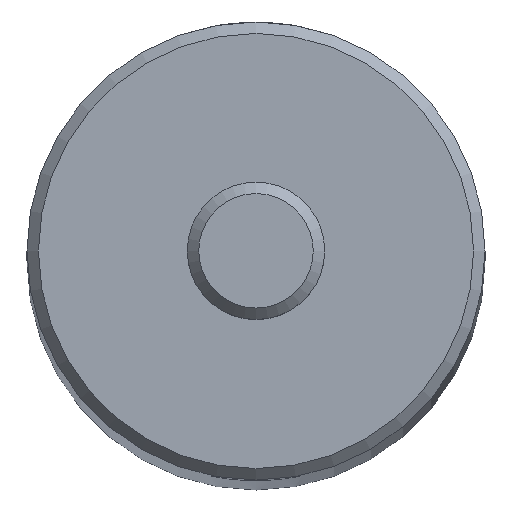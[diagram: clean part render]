
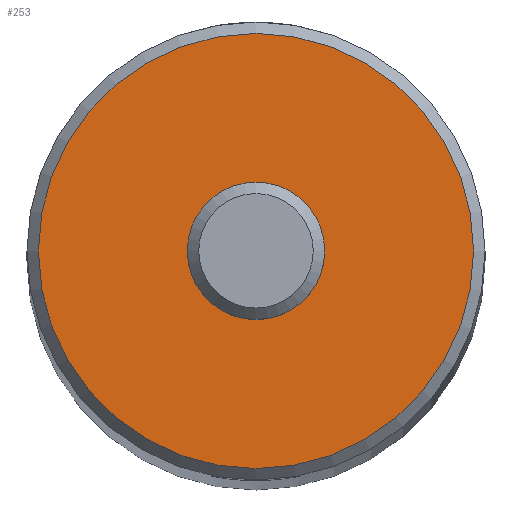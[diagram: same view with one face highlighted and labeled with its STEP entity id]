
A CAD part, top view. The second image highlights one B-rep face of the part: STEP entity #253.
In plain terms, the highlighted planar face has unit normal (0, 0, 1).
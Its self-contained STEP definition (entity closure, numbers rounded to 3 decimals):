
#49=CARTESIAN_POINT('',(9.5,0.,250.0));
#50=VERTEX_POINT('',#49);
#51=CARTESIAN_POINT('',(0.0,0.0,250.0));
#52=DIRECTION('',(0.0,0.0,-1.0));
#53=DIRECTION('',(-1.0,0.0,0.0));
#54=AXIS2_PLACEMENT_3D('',#51,#52,#53);
#55=CIRCLE('',#54,9.5);
#56=EDGE_CURVE('',#50,#50,#55,.T.);
#234=CARTESIAN_POINT('',(0.0,0.0,250.0));
#235=DIRECTION('',(0.0,0.0,1.0));
#236=DIRECTION('',(1.0,0.0,0.0));
#237=AXIS2_PLACEMENT_3D('',#234,#235,#236);
#238=PLANE('',#237);
#239=ORIENTED_EDGE('',*,*,#56,.F.);
#240=EDGE_LOOP('',(#239));
#241=FACE_OUTER_BOUND('',#240,.T.);
#242=CARTESIAN_POINT('',(2.5,0.,250.0));
#243=VERTEX_POINT('',#242);
#244=CARTESIAN_POINT('',(0.0,0.0,250.0));
#245=DIRECTION('',(0.0,0.0,1.0));
#246=DIRECTION('',(-1.0,0.0,0.0));
#247=AXIS2_PLACEMENT_3D('',#244,#245,#246);
#248=CIRCLE('',#247,2.5);
#249=EDGE_CURVE('',#243,#243,#248,.T.);
#250=ORIENTED_EDGE('',*,*,#249,.F.);
#251=EDGE_LOOP('',(#250));
#252=FACE_BOUND('',#251,.T.);
#253=ADVANCED_FACE('',(#241,#252),#238,.T.);
